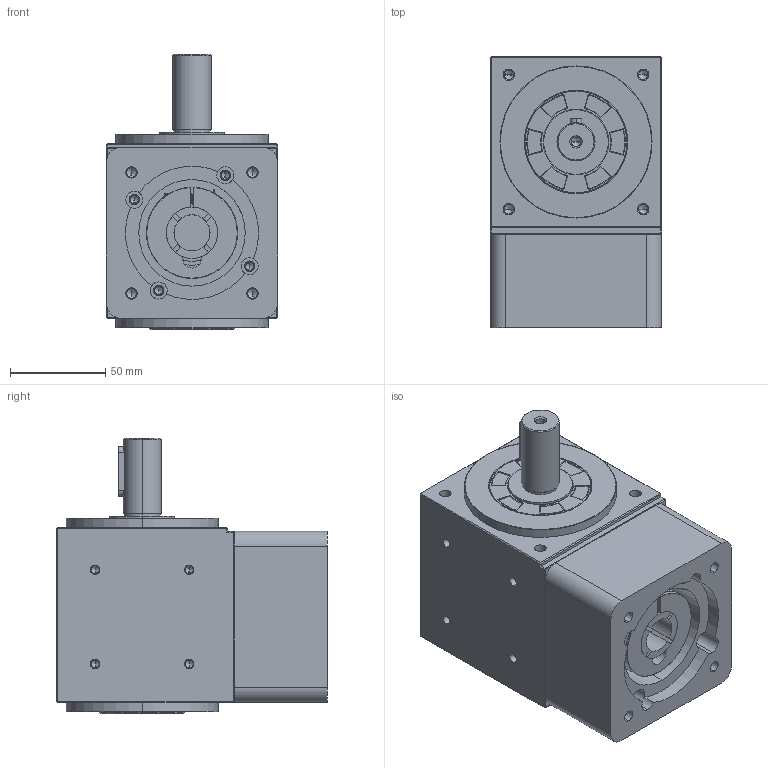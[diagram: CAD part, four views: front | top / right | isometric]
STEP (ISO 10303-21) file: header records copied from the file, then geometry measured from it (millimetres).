
FILE_DESCRIPTION (( 'STEP AP203' ), '1' );
FILE_NAME ('RS90-5(19-70-90-M6).STEP', '2022-03-11T13:07:41', ( '' ), ( '' ), 'SwSTEP 2.0', 'SolidWorks 2016', '' );
FILE_SCHEMA (( 'CONFIG_CONTROL_DESIGN' ));
Length unit declared in the file: millimetre
Products named in the file (8): R90-5-(19); R90-34x54x8; SN90-48x27x15-M6; R90-45x75x7; RS90-5(19-70-90-M6); R90-5(70-90-M6); RS90-(20x41-6x25); R90
Assembly tree (7 placements, depth 2):
  RS90-5(19-70-90-M6)
    R90
    RS90-(20x41-6x25)
    R90-5(70-90-M6)
    R90-34x54x8
    R90-45x75x7
    SN90-48x27x15-M6
    R90-5-(19)
Bounding box: 90 x 142.43 x 145 mm (x, y, z)
Volume: 930573.2 mm3; surface area: 173589 mm2
Topology: 8 solids, 8 shells, 670 faces, 1621 edges, 968 vertices
Faces by surface type: cylinder 331, cone 134, plane 130, torus 48, bspline 27
Entity records: 36580 total; most frequent: CARTESIAN_POINT 20872, DIRECTION 3126, ORIENTED_EDGE 3122, EDGE_CURVE 1561, AXIS2_PLACEMENT_3D 1229, VERTEX_POINT 968, EDGE_LOOP 755, FACE_OUTER_BOUND 670
